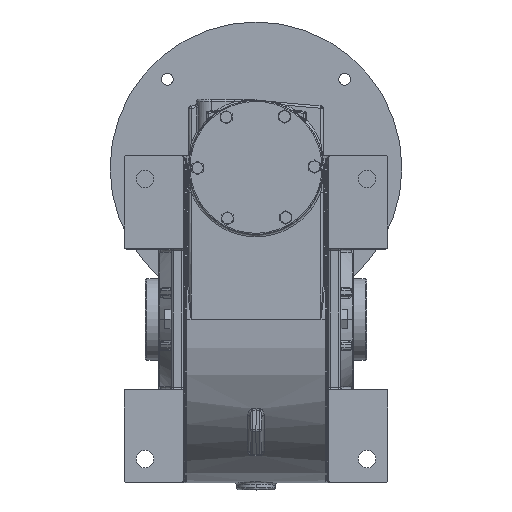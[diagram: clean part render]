
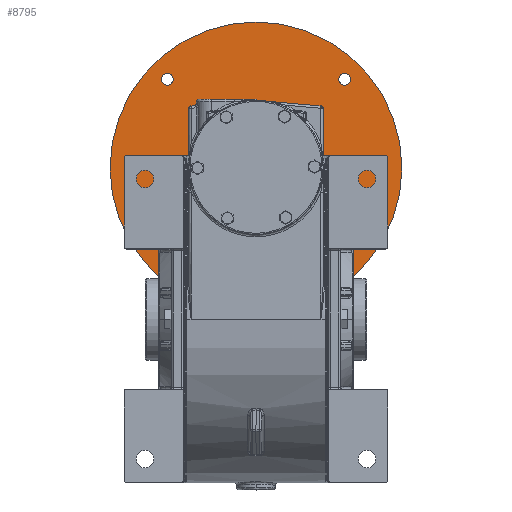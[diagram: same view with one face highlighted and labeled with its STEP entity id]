
A CAD part, top view. The second image highlights one B-rep face of the part: STEP entity #8795.
In plain terms, the highlighted planar face has unit normal (0, 0, 1).
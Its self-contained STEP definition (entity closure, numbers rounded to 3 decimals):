
#8671 = ORIENTED_EDGE ( 'NONE', *, *, #8672, .T. ) ;
#8672 = EDGE_CURVE ( 'NONE', #30031, #30038, #97515, .T. ) ;
#8676 = EDGE_LOOP ( 'NONE', ( #8678, #8679 ) ) ;
#8678 = ORIENTED_EDGE ( 'NONE', *, *, #30016, .T. ) ;
#8679 = ORIENTED_EDGE ( 'NONE', *, *, #8680, .T. ) ;
#8680 = EDGE_CURVE ( 'NONE', #30012, #30017, #97713, .T. ) ;
#8681 = EDGE_LOOP ( 'NONE', ( #8798, #8799 ) ) ;
#8764 = EDGE_LOOP ( 'NONE', ( #8796, #8797 ) ) ;
#8777 = EDGE_LOOP ( 'NONE', ( #8778, #8782 ) ) ;
#8778 = ORIENTED_EDGE ( 'NONE', *, *, #8779, .T. ) ;
#8779 = EDGE_CURVE ( 'NONE', #30460, #30457, #99986, .T. ) ;
#8782 = ORIENTED_EDGE ( 'NONE', *, *, #30454, .T. ) ;
#8785 = EDGE_LOOP ( 'NONE', ( #8787, #8671 ) ) ;
#8787 = ORIENTED_EDGE ( 'NONE', *, *, #30036, .T. ) ;
#8795 = ADVANCED_FACE ( 'NONE', ( #99802, #99800, #99798, #99797, #99795, #99792 ), #99789, .T. ) ;
#8796 = ORIENTED_EDGE ( 'NONE', *, *, #51179, .F. ) ;
#8797 = ORIENTED_EDGE ( 'NONE', *, *, #13402, .F. ) ;
#8798 = ORIENTED_EDGE ( 'NONE', *, *, #30050, .T. ) ;
#8799 = ORIENTED_EDGE ( 'NONE', *, *, #8800, .T. ) ;
#8800 = EDGE_CURVE ( 'NONE', #30046, #30051, #99775, .T. ) ;
#8801 = EDGE_LOOP ( 'NONE', ( #8802, #8803 ) ) ;
#8802 = ORIENTED_EDGE ( 'NONE', *, *, #30001, .T. ) ;
#8803 = ORIENTED_EDGE ( 'NONE', *, *, #8805, .T. ) ;
#8805 = EDGE_CURVE ( 'NONE', #29999, #30103, #99886, .T. ) ;
#13402 = EDGE_CURVE ( 'NONE', #13654, #13404, #59780, .T. ) ;
#13404 = VERTEX_POINT ( 'NONE', #60072 ) ;
#13654 = VERTEX_POINT ( 'NONE', #62404 ) ;
#29999 = VERTEX_POINT ( 'NONE', #94964 ) ;
#30001 = EDGE_CURVE ( 'NONE', #30103, #29999, #94962, .T. ) ;
#30012 = VERTEX_POINT ( 'NONE', #95097 ) ;
#30016 = EDGE_CURVE ( 'NONE', #30017, #30012, #95096, .T. ) ;
#30017 = VERTEX_POINT ( 'NONE', #95091 ) ;
#30031 = VERTEX_POINT ( 'NONE', #95122 ) ;
#30036 = EDGE_CURVE ( 'NONE', #30038, #30031, #95118, .T. ) ;
#30038 = VERTEX_POINT ( 'NONE', #95041 ) ;
#30046 = VERTEX_POINT ( 'NONE', #95034 ) ;
#30050 = EDGE_CURVE ( 'NONE', #30051, #30046, #95011, .T. ) ;
#30051 = VERTEX_POINT ( 'NONE', #95006 ) ;
#30103 = VERTEX_POINT ( 'NONE', #95228 ) ;
#30454 = EDGE_CURVE ( 'NONE', #30457, #30460, #95727, .T. ) ;
#30457 = VERTEX_POINT ( 'NONE', #95719 ) ;
#30460 = VERTEX_POINT ( 'NONE', #95718 ) ;
#51179 = EDGE_CURVE ( 'NONE', #13404, #13654, #103508, .T. ) ;
#59723 = AXIS2_PLACEMENT_3D ( 'NONE', #59783, #60182, #60181 ) ;
#59780 = CIRCLE ( 'NONE', #59723, 57.5 ) ;
#59783 = CARTESIAN_POINT ( 'NONE',  ( 0., 0., -150.55 ) ) ;
#60072 = CARTESIAN_POINT ( 'NONE',  ( -57.5, 0., -150.55 ) ) ;
#60181 = DIRECTION ( 'NONE',  ( -1., 0., 0. ) ) ;
#60182 = DIRECTION ( 'NONE',  ( 0., 0., 1. ) ) ;
#62404 = CARTESIAN_POINT ( 'NONE',  ( 57.5, 0., -150.55 ) ) ;
#94958 = DIRECTION ( 'NONE',  ( 1., 0., 0. ) ) ;
#94959 = DIRECTION ( 'NONE',  ( 0., 0., -1. ) ) ;
#94960 = CARTESIAN_POINT ( 'NONE',  ( 76.014, 76.014, -150.55 ) ) ;
#94961 = AXIS2_PLACEMENT_3D ( 'NONE', #94960, #94959, #94958 ) ;
#94962 = CIRCLE ( 'NONE', #94961, 5.053 ) ;
#94964 = CARTESIAN_POINT ( 'NONE',  ( 70.961, 76.014, -150.55 ) ) ;
#95006 = CARTESIAN_POINT ( 'NONE',  ( 81.067, -76.014, -150.55 ) ) ;
#95007 = DIRECTION ( 'NONE',  ( 1., 0., 0. ) ) ;
#95008 = DIRECTION ( 'NONE',  ( 0., 0., -1. ) ) ;
#95009 = CARTESIAN_POINT ( 'NONE',  ( 76.014, -76.014, -150.55 ) ) ;
#95010 = AXIS2_PLACEMENT_3D ( 'NONE', #95009, #95008, #95007 ) ;
#95011 = CIRCLE ( 'NONE', #95010, 5.053 ) ;
#95034 = CARTESIAN_POINT ( 'NONE',  ( 70.961, -76.014, -150.55 ) ) ;
#95041 = CARTESIAN_POINT ( 'NONE',  ( -70.961, -76.014, -150.55 ) ) ;
#95091 = CARTESIAN_POINT ( 'NONE',  ( -70.961, 76.014, -150.55 ) ) ;
#95092 = DIRECTION ( 'NONE',  ( 1., 0., 0. ) ) ;
#95093 = DIRECTION ( 'NONE',  ( 0., 0., -1. ) ) ;
#95094 = CARTESIAN_POINT ( 'NONE',  ( -76.014, 76.014, -150.55 ) ) ;
#95095 = AXIS2_PLACEMENT_3D ( 'NONE', #95094, #95093, #95092 ) ;
#95096 = CIRCLE ( 'NONE', #95095, 5.053 ) ;
#95097 = CARTESIAN_POINT ( 'NONE',  ( -81.067, 76.014, -150.55 ) ) ;
#95114 = DIRECTION ( 'NONE',  ( 1., 0., 0. ) ) ;
#95115 = DIRECTION ( 'NONE',  ( 0., 0., -1. ) ) ;
#95116 = CARTESIAN_POINT ( 'NONE',  ( -76.014, -76.014, -150.55 ) ) ;
#95117 = AXIS2_PLACEMENT_3D ( 'NONE', #95116, #95115, #95114 ) ;
#95118 = CIRCLE ( 'NONE', #95117, 5.053 ) ;
#95122 = CARTESIAN_POINT ( 'NONE',  ( -81.067, -76.014, -150.55 ) ) ;
#95228 = CARTESIAN_POINT ( 'NONE',  ( 81.067, 76.014, -150.55 ) ) ;
#95718 = CARTESIAN_POINT ( 'NONE',  ( -125., 0., -150.55 ) ) ;
#95719 = CARTESIAN_POINT ( 'NONE',  ( 125., 0., -150.55 ) ) ;
#95720 = DIRECTION ( 'NONE',  ( -1., 0., 0. ) ) ;
#95721 = DIRECTION ( 'NONE',  ( 0., 0., 1. ) ) ;
#95722 = CARTESIAN_POINT ( 'NONE',  ( 0., 0., -150.55 ) ) ;
#95723 = AXIS2_PLACEMENT_3D ( 'NONE', #95722, #95721, #95720 ) ;
#95727 = CIRCLE ( 'NONE', #95723, 125. ) ;
#97509 = DIRECTION ( 'NONE',  ( 1., 0., 0. ) ) ;
#97512 = DIRECTION ( 'NONE',  ( 0., 0., -1. ) ) ;
#97513 = CARTESIAN_POINT ( 'NONE',  ( -76.014, -76.014, -150.55 ) ) ;
#97514 = AXIS2_PLACEMENT_3D ( 'NONE', #97513, #97512, #97509 ) ;
#97515 = CIRCLE ( 'NONE', #97514, 5.053 ) ;
#97516 = CARTESIAN_POINT ( 'NONE',  ( -76.014, 76.014, -150.55 ) ) ;
#97709 = DIRECTION ( 'NONE',  ( 1., 0., 0. ) ) ;
#97710 = DIRECTION ( 'NONE',  ( 0., 0., -1. ) ) ;
#97711 = AXIS2_PLACEMENT_3D ( 'NONE', #97516, #97710, #97709 ) ;
#97713 = CIRCLE ( 'NONE', #97711, 5.053 ) ;
#99766 = DIRECTION ( 'NONE',  ( 1., 0., 0. ) ) ;
#99769 = DIRECTION ( 'NONE',  ( 0., 0., -1. ) ) ;
#99772 = CARTESIAN_POINT ( 'NONE',  ( 76.014, -76.014, -150.55 ) ) ;
#99773 = AXIS2_PLACEMENT_3D ( 'NONE', #99772, #99769, #99766 ) ;
#99775 = CIRCLE ( 'NONE', #99773, 5.053 ) ;
#99777 = CARTESIAN_POINT ( 'NONE',  ( 76.014, 76.014, -150.55 ) ) ;
#99782 = DIRECTION ( 'NONE',  ( 0., -1., 0. ) ) ;
#99783 = DIRECTION ( 'NONE',  ( 0., 0., 1. ) ) ;
#99784 = CARTESIAN_POINT ( 'NONE',  ( -64.523, -64.523, -150.55 ) ) ;
#99787 = AXIS2_PLACEMENT_3D ( 'NONE', #99784, #99783, #99782 ) ;
#99789 = PLANE ( 'NONE',  #99787 ) ;
#99792 = FACE_BOUND ( 'NONE', #8801, .T. ) ;
#99795 = FACE_BOUND ( 'NONE', #8681, .T. ) ;
#99797 = FACE_BOUND ( 'NONE', #8676, .T. ) ;
#99798 = FACE_BOUND ( 'NONE', #8785, .T. ) ;
#99800 = FACE_OUTER_BOUND ( 'NONE', #8777, .T. ) ;
#99802 = FACE_BOUND ( 'NONE', #8764, .T. ) ;
#99878 = DIRECTION ( 'NONE',  ( 1., 0., 0. ) ) ;
#99881 = DIRECTION ( 'NONE',  ( 0., 0., -1. ) ) ;
#99884 = AXIS2_PLACEMENT_3D ( 'NONE', #99777, #99881, #99878 ) ;
#99886 = CIRCLE ( 'NONE', #99884, 5.053 ) ;
#99982 = DIRECTION ( 'NONE',  ( -1., 0., 0. ) ) ;
#99983 = DIRECTION ( 'NONE',  ( 0., 0., 1. ) ) ;
#99984 = CARTESIAN_POINT ( 'NONE',  ( 0., 0., -150.55 ) ) ;
#99985 = AXIS2_PLACEMENT_3D ( 'NONE', #99984, #99983, #99982 ) ;
#99986 = CIRCLE ( 'NONE', #99985, 125. ) ;
#103506 = AXIS2_PLACEMENT_3D ( 'NONE', #103662, #103661, #103660 ) ;
#103508 = CIRCLE ( 'NONE', #103506, 57.5 ) ;
#103660 = DIRECTION ( 'NONE',  ( -1., 0., 0. ) ) ;
#103661 = DIRECTION ( 'NONE',  ( 0., 0., 1. ) ) ;
#103662 = CARTESIAN_POINT ( 'NONE',  ( 0., 0., -150.55 ) ) ;
